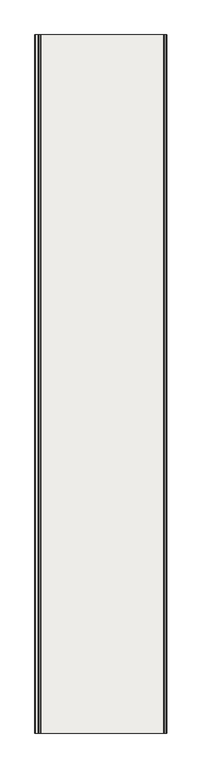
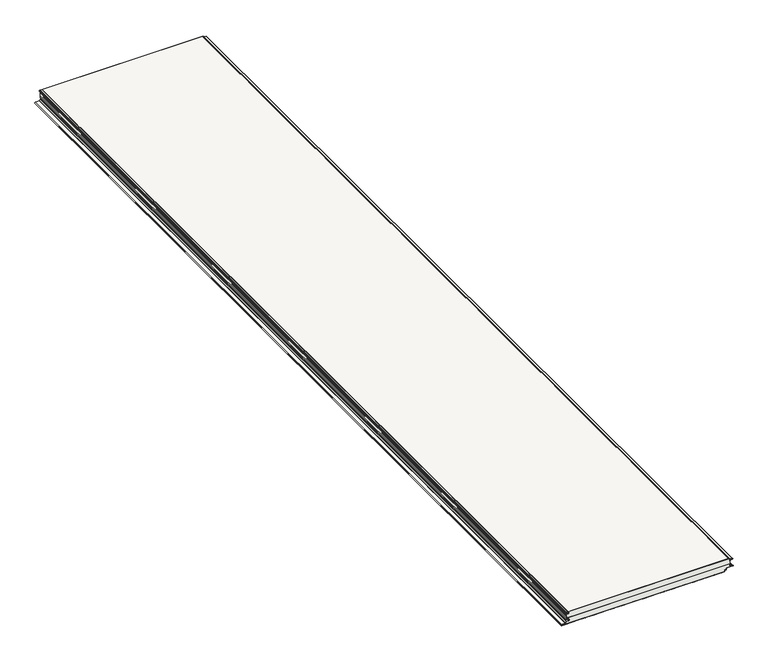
"""IFC4 building model written with IfcOpenShell, lengths in millimetres: covering geometry, Płyta warstwowa ścienna SPW-H CORE PIR (pojedynczy arkusz) : -."""

from ifc_helpers import new_model, si_unit, point, frame, frame_2d, origin, place, context, project, spatial, polyline, circle_curve, trimmed, segment, composite_curve, outline, extrude, source, transform, mapped, element, save
from ifc_brep_helpers import plane_surface, cylinder_surface, revolved_surface, advanced_brep


def covering_65365aae(model_context):
    return source(origin(), model_context, "Body", "SolidModel", [
        extrude(outline(composite_curve([segment(polyline([(-15.1088808, -1083.0523342), (-14.5423642, -1072.2421915)]), True, "CONTINUOUS"), segment(trimmed(circle_curve(frame_2d((-9.549216, -1072.5038626)), 5.0), [point((-14.5423642, -1072.2421915))], [point((-4.5522622, -1072.3293564))], False, "CARTESIAN"), True, "CONTINUOUS"), segment(polyline([(-4.5522622, -1072.3293564), (-4.0495702, -1086.7238513)]), True, "CONTINUOUS"), segment(trimmed(circle_curve(frame_2d((-2.5266447, -1086.6173526)), 1.5266447), [point((-4.0495702, -1086.7238513))], [point((-1.0, -1086.6173526))], True, "CARTESIAN"), True, "CONTINUOUS"), segment(polyline([(-1.0, -1086.6173526), (-1.0, -1085.0), (0.0, -1085.0), (0.0, -1086.6173526)]), True, "CONTINUOUS"), segment(trimmed(circle_curve(frame_2d((-2.5266447, -1086.6173526)), 2.5266447), [point((0.0, -1086.6173526))], [point((-5.0484281, -1086.7740115))], False, "CARTESIAN"), True, "CONTINUOUS"), segment(polyline([(-5.0484281, -1086.7740115), (-5.551653, -1072.3642576)]), True, "CONTINUOUS"), segment(trimmed(circle_curve(frame_2d((-9.549216, -1072.5038626)), 4.0), [point((-5.551653, -1072.3642576))], [point((-13.5437346, -1072.2945257))], True, "CARTESIAN"), True, "CONTINUOUS"), segment(polyline([(-13.5437346, -1072.2945257), (-14.1102512, -1083.1046684)]), True, "CONTINUOUS"), segment(trimmed(circle_curve(frame_2d((-16.1075105, -1083.0)), 2.0), [point((-14.1102512, -1083.1046684))], [point((-16.1075105, -1085.0))], False, "CARTESIAN"), True, "CONTINUOUS"), segment(polyline([(-16.1075105, -1085.0), (-18.1075105, -1085.0), (-18.1075105, -1084.0), (-16.1075105, -1084.0)]), True, "CONTINUOUS"), segment(trimmed(circle_curve(frame_2d((-16.1075105, -1083.0)), 1.0), [point((-16.1075105, -1084.0))], [point((-15.1088808, -1083.0523342))], True, "CARTESIAN"), True, "CONTINUOUS")], self_intersect=False)), frame((0.0, -5830.0, 0.0), z_axis=(0.0, 1.0, 0.0), x_axis=(0.0, 0.0, 1.0)), (0.0, 0.0, 1.0), 5830.0),
        advanced_brep(
        [(-1080.5824878, -5830.0, -62.0150874), (-1069.3324878, -5830.0, -61.9992045), (-1069.0709825, -5830.0, -52.0060522), (-1083.2742211, -5830.0, -51.2619406), (-1084.0, -5830.0, -50.4971426), (-1084.0, -5830.0, -41.4971426), (-1085.0, -5830.0, -41.4971426), (-1085.0, -5830.0, -50.4971426), (-1083.3265396, -5830.0, -52.260571), (-1069.123301, -5830.0, -53.0046827), (-1069.3331636, -5830.0, -60.9992044), (-1080.6396582, -5830.0, -61.0151671), (-1082.7899391, -5830.0, -62.27871), (-1088.1496634, -5830.0, -69.933474), (-1090.1975249, -5830.0, -70.9995686), (-1113.4143745, -5830.0, -70.9999738), (-1113.414296, -5830.0, -80.0), (-1085.0, -5830.0, -80.0), (-1085.0, -5830.0, -79.0), (-1113.414296, -5830.0, -79.0), (-1113.4143571, -5830.0, -72.0), (-1090.1975075, -5830.0, -71.9995686), (-1087.3305014, -5830.0, -70.5070361), (-1081.9707771, -5830.0, -62.8522722), (-1080.5824878, 0.0, -62.0150874), (-1081.9707771, 0.0, -62.8522722), (-1087.3305014, 0.0, -70.5070361), (-1090.1975075, 0.0, -71.9995686), (-1113.4143571, 0.0, -71.9999738), (-1113.414296, 0.0, -79.0), (-1085.0, 0.0, -79.0), (-1085.0, 0.0, -80.0), (-1113.414296, 0.0, -80.0), (-1113.4143745, 0.0, -71.0), (-1090.1975249, 0.0, -70.9995686), (-1088.1496634, 0.0, -69.933474), (-1082.7899391, 0.0, -62.27871), (-1080.6396582, 0.0, -61.0151671), (-1069.3331636, 0.0, -60.9992044), (-1069.123301, 0.0, -53.0046827), (-1083.3265396, 0.0, -52.260571), (-1085.0, 0.0, -50.4971426), (-1085.0, 0.0, -41.4971426), (-1084.0, 0.0, -41.4971426), (-1084.0, 0.0, -50.4971426), (-1083.2742211, 0.0, -51.2619406), (-1069.0709825, 0.0, -52.0060522), (-1069.3324878, 0.0, -61.9992045)],
        [
            (0, 1),
            (1, 2, circle_curve(frame((-1069.3325751, -5830.0, -56.9992045), z_axis=(0.0, -1.0, 0.0), x_axis=(1.0, 0.0, 0.0)), 5.0)),
            (2, 3),
            (3, 4, circle_curve(frame((-1083.2341531, -5830.0, -50.4971426), z_axis=(0.0, 1.0, 0.0), x_axis=(1.0, 0.0, 0.0)), 0.7658469)),
            (4, 5),
            (5, 6),
            (6, 7),
            (7, 8, circle_curve(frame((-1083.2341531, -5830.0, -50.4971426), z_axis=(0.0, -1.0, 0.0), x_axis=(1.0, 0.0, 0.0)), 1.7658469)),
            (8, 9),
            (9, 10, circle_curve(frame((-1069.3325751, -5830.0, -56.9992045), z_axis=(0.0, 1.0, 0.0), x_axis=(1.0, 0.0, 0.0)), 4.0)),
            (10, 11),
            (11, 12, circle_curve(frame((-1080.3324529, -5830.0, -63.9993964), z_axis=(0.0, -1.0, 0.0), x_axis=(1.0, 0.0, 0.0)), 3.0)),
            (12, 13),
            (13, 14, circle_curve(frame((-1090.1975686, -5830.0, -68.4995686), z_axis=(0.0, 1.0, 0.0), x_axis=(1.0, 0.0, 0.0)), 2.5)),
            (14, 15),
            (15, 16, circle_curve(frame((-1113.414296, -5830.0, -75.5), z_axis=(0.0, -1.0, 0.0), x_axis=(1.0, 0.0, 0.0)), 4.5)),
            (16, 17),
            (17, 18),
            (18, 19),
            (19, 20, circle_curve(frame((-1113.414296, -5830.0, -75.5), z_axis=(0.0, 1.0, 0.0), x_axis=(1.0, 0.0, 0.0)), 3.5)),
            (20, 21),
            (21, 22, circle_curve(frame((-1090.1975686, -5830.0, -68.4995686), z_axis=(0.0, -1.0, 0.0), x_axis=(1.0, 0.0, 0.0)), 3.5)),
            (22, 23),
            (23, 0, circle_curve(frame((-1080.3324529, -5830.0, -63.9993964), z_axis=(0.0, 1.0, 0.0), x_axis=(1.0, 0.0, 0.0)), 2.0)),
            (24, 25, circle_curve(frame((-1080.3324529, 0.0, -63.9993964), z_axis=(0.0, -1.0, 0.0), x_axis=(1.0, 0.0, 0.0)), 2.0)),
            (25, 26),
            (26, 27, circle_curve(frame((-1090.1975686, 0.0, -68.4995686), z_axis=(0.0, 1.0, 0.0), x_axis=(1.0, 0.0, 0.0)), 3.5)),
            (27, 28),
            (28, 29, circle_curve(frame((-1113.414296, 0.0, -75.5), z_axis=(0.0, -1.0, 0.0), x_axis=(1.0, 0.0, 0.0)), 3.5)),
            (29, 30),
            (30, 31),
            (31, 32),
            (32, 33, circle_curve(frame((-1113.414296, 0.0, -75.5), z_axis=(0.0, 1.0, 0.0), x_axis=(1.0, 0.0, 0.0)), 4.5)),
            (33, 34),
            (34, 35, circle_curve(frame((-1090.1975686, 0.0, -68.4995686), z_axis=(0.0, -1.0, 0.0), x_axis=(1.0, 0.0, 0.0)), 2.5)),
            (35, 36),
            (36, 37, circle_curve(frame((-1080.3324529, 0.0, -63.9993964), z_axis=(0.0, 1.0, 0.0), x_axis=(1.0, 0.0, 0.0)), 3.0)),
            (37, 38),
            (38, 39, circle_curve(frame((-1069.3325751, 0.0, -56.9992045), z_axis=(0.0, -1.0, 0.0), x_axis=(1.0, 0.0, 0.0)), 4.0)),
            (39, 40),
            (40, 41, circle_curve(frame((-1083.2341531, 0.0, -50.4971426), z_axis=(0.0, 1.0, 0.0), x_axis=(1.0, 0.0, 0.0)), 1.7658469)),
            (41, 42),
            (42, 43),
            (43, 44),
            (44, 45, circle_curve(frame((-1083.2341531, 0.0, -50.4971426), z_axis=(0.0, -1.0, 0.0), x_axis=(1.0, 0.0, 0.0)), 0.7658469)),
            (45, 46),
            (46, 47, circle_curve(frame((-1069.3325751, 0.0, -56.9992045), z_axis=(0.0, 1.0, 0.0), x_axis=(1.0, 0.0, 0.0)), 5.0)),
            (47, 24),
            (0, 24),
            (47, 1),
            (46, 2),
            (45, 3),
            (44, 4),
            (43, 5),
            (42, 6),
            (16, 32),
            (31, 17),
            (30, 18),
            (29, 19),
            (41, 7),
            (40, 8),
            (39, 9),
            (38, 10),
            (37, 11),
            (36, 12),
            (35, 13),
            (34, 14),
            (33, 15),
            (20, 28),
            (27, 21),
            (26, 22),
            (25, 23),
        ],
        [
            plane_surface(frame((-1085.0, -5830.0, -80.0), z_axis=(0.0, -1.0, 0.0), x_axis=(0.0, 0.0, -1.0))),
            plane_surface(frame((-1085.0, 0.0, -80.0), z_axis=(0.0, 1.0, 0.0), x_axis=(0.0, 0.0, -1.0))),
            plane_surface(frame((-1080.5824878, -5830.0, -62.0150874), z_axis=(0.001411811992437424, 0.0, -0.9999990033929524), x_axis=(0.0, 1.0, 0.0))),
            cylinder_surface(frame((-1069.3325751, -5830.0, -56.9992045), z_axis=(0.0, -1.0, 0.0), x_axis=(1.0, 0.0, 0.0)), 5.0),
            plane_surface(frame((-1069.0709825, -5830.0, -52.0060522), z_axis=(0.05231852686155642, 0.0, 0.998630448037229), x_axis=(0.0, 1.0, 0.0))),
            revolved_surface(polyline([(-1082.4683062, 0.0, -50.4971426), (-1082.4683062, -5830.0, -50.4971426)]), (-1083.2341531, -5830.0, -50.4971426), (0.0, 1.0, 0.0)),
            plane_surface(frame((-1084.0, -5830.0, -50.4971426), z_axis=(1.0, 0.0, 0.0), x_axis=(0.0, 1.0, 0.0))),
            plane_surface(frame((-1084.0, -5830.0, -41.4971426), z_axis=(0.0, 0.0, 1.0), x_axis=(0.0, 1.0, 0.0))),
            plane_surface(frame((-1113.414296, -5830.0, -80.0), z_axis=(0.0, 0.0, -1.0), x_axis=(0.0, 1.0, 0.0))),
            plane_surface(frame((-1085.0, -5830.0, -80.0), z_axis=(1.0, 0.0, 0.0), x_axis=(0.0, 1.0, 0.0))),
            plane_surface(frame((-1085.0, -5830.0, -79.0), z_axis=(0.0, 0.0, 1.0), x_axis=(0.0, 1.0, 0.0))),
            plane_surface(frame((-1085.0, -5830.0, -41.4971426), z_axis=(-1.0, 0.0, 0.0), x_axis=(0.0, 1.0, 0.0))),
            cylinder_surface(frame((-1083.2341531, -5830.0, -50.4971426), z_axis=(0.0, -1.0, 0.0), x_axis=(1.0, 0.0, 0.0)), 1.7658469),
            plane_surface(frame((-1083.3265396, -5830.0, -52.260571), z_axis=(-0.05231852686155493, 0.0, -0.998630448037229), x_axis=(0.0, 1.0, 0.0))),
            revolved_surface(polyline([(-1065.3325751, 0.0, -56.9992045), (-1065.3325751, -5830.0, -56.9992045)]), (-1069.3325751, -5830.0, -56.9992045), (0.0, 1.0, 0.0)),
            plane_surface(frame((-1069.3331636, -5830.0, -60.9992044), z_axis=(-0.0014118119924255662, 0.0, 0.9999990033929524), x_axis=(0.0, 1.0, 0.0))),
            cylinder_surface(frame((-1080.3324529, -5830.0, -63.9993964), z_axis=(0.0, -1.0, 0.0), x_axis=(1.0, 0.0, 0.0)), 3.0),
            plane_surface(frame((-1082.7899391, -5830.0, -62.27871), z_axis=(-0.8191620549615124, 0.0, 0.5735621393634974), x_axis=(0.0, 1.0, 0.0))),
            revolved_surface(polyline([(-1087.6975686, 0.0, -68.4995686), (-1087.6975686, -5830.0, -68.4995686)]), (-1090.1975686, -5830.0, -68.4995686), (0.0, 1.0, 0.0)),
            plane_surface(frame((-1090.1975249, -5830.0, -70.9995686), z_axis=(-1.745329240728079e-05, 0.0, 0.9999999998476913), x_axis=(0.0, 1.0, 0.0))),
            plane_surface(frame((-1113.4143571, -5830.0, -71.9999738), z_axis=(1.745329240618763e-05, 0.0, -0.9999999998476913), x_axis=(0.0, 1.0, 0.0))),
            cylinder_surface(frame((-1090.1975686, -5830.0, -68.4995686), z_axis=(0.0, -1.0, 0.0), x_axis=(1.0, 0.0, 0.0)), 3.5),
            plane_surface(frame((-1087.3305014, -5830.0, -70.5070361), z_axis=(0.8191620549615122, 0.0, -0.5735621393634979), x_axis=(0.0, 1.0, 0.0))),
            revolved_surface(polyline([(-1078.3324529, 0.0, -63.9993964), (-1078.3324529, -5830.0, -63.9993964)]), (-1080.3324529, -5830.0, -63.9993964), (0.0, 1.0, 0.0)),
            cylinder_surface(frame((-1113.414296, -5830.0, -75.5), z_axis=(0.0, -1.0, 0.0), x_axis=(1.0, 0.0, 0.0)), 4.5),
            revolved_surface(polyline([(-1109.914296, 0.0, -75.5), (-1109.914296, -5830.0, -75.5)]), (-1113.414296, -5830.0, -75.5), (0.0, 1.0, 0.0)),
        ],
        [
            (0, [[1, 2, 3, 4, 5, 6, 7, 8, 9, 10, 11, 12, 13, 14, 15, 16, 17, 18, 19, 20, 21, 22, 23, 24]]),
            (1, [[25, 26, 27, 28, 29, 30, 31, 32, 33, 34, 35, 36, 37, 38, 39, 40, 41, 42, 43, 44, 45, 46, 47, 48]]),
            (2, [[-1, 49, -48, 50]]),
            (3, [[-2, -50, -47, 51]]),
            (4, [[-3, -51, -46, 52]]),
            (5, [[-4, -52, -45, 53]]),
            (6, [[-5, -53, -44, 54]]),
            (7, [[-6, -54, -43, 55]]),
            (8, [[-17, 56, -32, 57]]),
            (9, [[-18, -57, -31, 58]]),
            (10, [[-19, -58, -30, 59]]),
            (11, [[-7, -55, -42, 60]]),
            (12, [[-8, -60, -41, 61]]),
            (13, [[-9, -61, -40, 62]]),
            (14, [[-10, -62, -39, 63]]),
            (15, [[-11, -63, -38, 64]]),
            (16, [[-12, -64, -37, 65]]),
            (17, [[-13, -65, -36, 66]]),
            (18, [[-14, -66, -35, 67]]),
            (19, [[-15, -67, -34, 68]]),
            (20, [[-21, 69, -28, 70]]),
            (21, [[-22, -70, -27, 71]]),
            (22, [[-23, -71, -26, 72]]),
            (23, [[-24, -72, -25, -49]]),
            (24, [[-16, -68, -33, -56]]),
            (25, [[-20, -59, -29, -69]]),
        ],
    ),
        extrude(outline(composite_curve([segment(polyline([(-80.0, -1049.0098003), (-79.6, -1047.6275239), (-79.6, -1003.4098003), (-80.0, -1002.0275239), (-80.0, -957.8098003), (-79.6, -956.4275239), (-79.6, -912.2098003), (-80.0, -910.8275239), (-80.0, -866.6098003), (-79.6, -865.2275239), (-79.6, -821.0098003), (-80.0, -819.6275239), (-80.0, -775.4098003), (-79.6, -774.0275239), (-79.6, -729.8098003), (-80.0, -728.4275239), (-80.0, -684.2098003), (-79.6, -682.8275239), (-79.6, -638.6098003), (-80.0, -637.2275239), (-80.0, -593.0098003), (-79.6, -591.6275239), (-79.6, -547.4098003), (-80.0, -546.0275239), (-80.0, -501.8098003), (-79.6, -500.4275239), (-79.6, -456.2098003), (-80.0, -454.8275239), (-80.0, -410.6098003), (-79.6, -409.2275239), (-79.6, -365.0098003), (-80.0, -363.6275239), (-80.0, -319.4098003), (-79.6, -318.0275239), (-79.6, -273.8098003), (-80.0, -272.4275239), (-80.0, -228.2098003), (-79.6, -226.8275239), (-79.6, -182.6098003), (-80.0, -181.2275239), (-80.0, -137.0098003), (-79.6, -135.6275239), (-79.6, -91.4098003), (-80.0, -90.0275239), (-80.0, -73.4477183)]), True, "CONTINUOUS"), segment(trimmed(circle_curve(frame_2d((-75.0, -73.4477183)), 5.0), [point((-80.0, -73.4477183))], [point((-75.0, -68.4477183))], False, "CARTESIAN"), True, "CONTINUOUS"), segment(polyline([(-75.0, -68.4477183), (-72.008232, -68.4477183)]), True, "CONTINUOUS"), segment(trimmed(circle_curve(frame_2d((-72.008232, -66.4315256)), 2.0161927), [point((-72.008232, -68.4477183))], [point((-69.9920393, -66.4315256))], True, "CARTESIAN"), True, "CONTINUOUS"), segment(polyline([(-69.9920393, -66.4315256), (-69.9920393, -60.9141788)]), True, "CONTINUOUS"), segment(trimmed(circle_curve(frame_2d((-67.4959919, -60.9141788)), 2.4960474), [point((-69.9920393, -60.9141788))], [point((-67.9326372, -58.4566204))], False, "CARTESIAN"), True, "CONTINUOUS"), segment(polyline([(-67.9326372, -58.4566204), (-61.6533464, -57.3460478)]), True, "CONTINUOUS"), segment(trimmed(circle_curve(frame_2d((-62.0004127, -55.3763918)), 2.0), [point((-61.6533464, -57.3460478))], [point((-60.0004127, -55.3763918))], True, "CARTESIAN"), True, "CONTINUOUS"), segment(polyline([(-60.0004127, -55.3763918), (-60.0004127, -18.8763918)]), True, "CONTINUOUS"), segment(trimmed(circle_curve(frame_2d((-57.0004127, -18.8763918)), 3.0), [point((-60.0004127, -18.8763918))], [point((-54.0045241, -18.7193839))], False, "CARTESIAN"), True, "CONTINUOUS"), segment(polyline([(-54.0045241, -18.7193839), (-53.2754556, -32.6308399)]), True, "CONTINUOUS"), segment(trimmed(circle_curve(frame_2d((-50.7788817, -32.5)), 2.5), [point((-53.2754556, -32.6308399))], [point((-50.7788817, -35.0))], True, "CARTESIAN"), True, "CONTINUOUS"), segment(polyline([(-50.7788817, -35.0), (-41.4988817, -35.0), (-41.4988817, -36.0), (-50.7788817, -36.0)]), True, "CONTINUOUS"), segment(trimmed(circle_curve(frame_2d((-50.7788817, -32.5)), 3.5), [point((-50.7788817, -36.0))], [point((-54.2740851, -32.6831758))], False, "CARTESIAN"), True, "CONTINUOUS"), segment(polyline([(-54.2740851, -32.6831758), (-55.0031536, -18.7717199)]), True, "CONTINUOUS"), segment(trimmed(circle_curve(frame_2d((-57.0004127, -18.8763918)), 2.0), [point((-55.0031536, -18.7717199))], [point((-59.0004127, -18.8763918))], True, "CARTESIAN"), True, "CONTINUOUS"), segment(polyline([(-59.0004127, -18.8763918), (-59.0004127, -55.3763918)]), True, "CONTINUOUS"), segment(trimmed(circle_curve(frame_2d((-62.0004127, -55.3763918)), 3.0), [point((-59.0004127, -55.3763918))], [point((-61.4794682, -58.330815))], False, "CARTESIAN"), True, "CONTINUOUS"), segment(polyline([(-61.4794682, -58.330815), (-67.7580406, -59.4412605)]), True, "CONTINUOUS"), segment(trimmed(circle_curve(frame_2d((-67.4959919, -60.9141788)), 1.4960474), [point((-67.7580406, -59.4412605))], [point((-68.9920393, -60.9141788))], True, "CARTESIAN"), True, "CONTINUOUS"), segment(polyline([(-68.9920393, -60.9141788), (-68.9920393, -66.4315256)]), True, "CONTINUOUS"), segment(trimmed(circle_curve(frame_2d((-72.008232, -66.4315256)), 3.0161927), [point((-68.9920393, -66.4315256))], [point((-72.008232, -69.4477183))], False, "CARTESIAN"), True, "CONTINUOUS"), segment(polyline([(-72.008232, -69.4477183), (-75.0, -69.4477183)]), True, "CONTINUOUS"), segment(trimmed(circle_curve(frame_2d((-75.0, -73.4477183)), 4.0), [point((-75.0, -69.4477183))], [point((-79.0, -73.4477183))], True, "CARTESIAN"), True, "CONTINUOUS"), segment(polyline([(-79.0, -73.4477183), (-79.0, -1085.0), (-80.0, -1085.0), (-80.0, -1049.0098003)]), True, "CONTINUOUS")], self_intersect=False)), frame((0.0, -5830.0, 0.0), z_axis=(0.0, 1.0, 0.0), x_axis=(0.0, 0.0, 1.0)), (0.0, 0.0, 1.0), 5830.0),
        extrude(outline(composite_curve([segment(polyline([(-1.0, -1085.0), (-1.0, -42.1186621)]), True, "CONTINUOUS"), segment(trimmed(circle_curve(frame_2d((-2.5, -42.1186621)), 1.5), [point((-1.0, -42.1186621))], [point((-2.5, -40.6186621))], True, "CARTESIAN"), True, "CONTINUOUS"), segment(polyline([(-2.5, -40.6186621), (-4.3, -40.6186621)]), True, "CONTINUOUS"), segment(trimmed(circle_curve(frame_2d((-4.3, -38.1186621)), 2.5), [point((-4.3, -40.6186621))], [point((-6.7984771, -38.2059108))], False, "CARTESIAN"), True, "CONTINUOUS"), segment(polyline([(-6.7984771, -38.2059108), (-7.363951, -22.012857)]), True, "CONTINUOUS"), segment(trimmed(circle_curve(frame_2d((-9.3627326, -22.082656)), 2.0), [point((-7.363951, -22.012857))], [point((-11.3599917, -21.9779841))], True, "CARTESIAN"), True, "CONTINUOUS"), segment(polyline([(-11.3599917, -21.9779841), (-11.921027, -32.6831758)]), True, "CONTINUOUS"), segment(trimmed(circle_curve(frame_2d((-15.4162304, -32.5)), 3.5), [point((-11.921027, -32.6831758))], [point((-15.4162304, -36.0))], False, "CARTESIAN"), True, "CONTINUOUS"), segment(polyline([(-15.4162304, -36.0), (-18.1062304, -36.0), (-18.1062304, -35.0), (-15.4162304, -35.0)]), True, "CONTINUOUS"), segment(trimmed(circle_curve(frame_2d((-15.4162304, -32.5)), 2.5), [point((-15.4162304, -35.0))], [point((-12.9196566, -32.6308399))], True, "CARTESIAN"), True, "CONTINUOUS"), segment(polyline([(-12.9196566, -32.6308399), (-12.3586212, -21.9256482)]), True, "CONTINUOUS"), segment(trimmed(circle_curve(frame_2d((-9.3627326, -22.082656)), 3.0), [point((-12.3586212, -21.9256482))], [point((-6.3645601, -21.9779575))], False, "CARTESIAN"), True, "CONTINUOUS"), segment(polyline([(-6.3645601, -21.9779575), (-5.7990862, -38.1710114)]), True, "CONTINUOUS"), segment(trimmed(circle_curve(frame_2d((-4.3, -38.1186621)), 1.5), [point((-5.7990862, -38.1710114))], [point((-4.3, -39.6186621))], True, "CARTESIAN"), True, "CONTINUOUS"), segment(polyline([(-4.3, -39.6186621), (-2.5, -39.6186621)]), True, "CONTINUOUS"), segment(trimmed(circle_curve(frame_2d((-2.5, -42.1186621)), 2.5), [point((-2.5, -39.6186621))], [point((0.0, -42.1186621))], False, "CARTESIAN"), True, "CONTINUOUS"), segment(polyline([(0.0, -42.1186621), (0.0, -1085.0), (-1.0, -1085.0)]), True, "CONTINUOUS")], self_intersect=False)), frame((0.0, -5830.0, 0.0), z_axis=(0.0, 1.0, 0.0), x_axis=(0.0, 0.0, 1.0)), (0.0, 0.0, 1.0), 5830.0),
        advanced_brep(
        [(-1113.414296, -5830.0, -79.0), (-1085.0, -5830.0, -79.0), (-73.4477183, -5830.0, -79.0), (-69.4477183, -5830.0, -75.0), (-69.4477183, -5830.0, -72.0078193), (-66.4315256, -5830.0, -68.9916266), (-60.9141788, -5830.0, -68.9916266), (-59.4412605, -5830.0, -67.7576279), (-58.330815, -5830.0, -61.4790555), (-55.3763918, -5830.0, -59.0), (-18.8763918, -5830.0, -59.0), (-18.7717199, -5830.0, -55.0027409), (-32.6831758, -5830.0, -54.2736724), (-36.0, -5830.0, -50.778469), (-36.0, -5830.0, -40.0), (-1084.0, -5830.0, -40.0), (-1084.0, -5830.0, -50.4971426), (-1083.2742211, -5830.0, -51.2619406), (-1069.0709825, -5830.0, -52.0060522), (-1069.3324878, -5830.0, -61.9992045), (-1080.3324878, -5830.0, -61.9993964), (-1081.9707771, -5830.0, -62.8522722), (-1087.3305014, -5830.0, -70.5070361), (-1090.1975075, -5830.0, -71.9995686), (-1113.4143571, -5830.0, -71.9999738), (-1085.0, 0.0, -79.0), (-1113.414296, 0.0, -79.0), (-1113.4143571, 0.0, -72.0), (-1090.1975075, 0.0, -71.9995686), (-1087.3305014, 0.0, -70.5070361), (-1081.9707771, 0.0, -62.8522722), (-1080.3324878, 0.0, -61.9993964), (-1069.3324878, 0.0, -61.9992045), (-1069.0709825, 0.0, -52.0060522), (-1083.2742211, 0.0, -51.2619406), (-1084.0, 0.0, -50.4971426), (-1084.0, 0.0, -40.0), (-36.0, 0.0, -40.0), (-36.0, 0.0, -50.778469), (-32.6831758, 0.0, -54.2736724), (-18.7717199, 0.0, -55.0027409), (-18.8763918, 0.0, -59.0), (-55.3763918, 0.0, -59.0), (-58.330815, 0.0, -61.4790555), (-59.4412605, 0.0, -67.7576279), (-60.9141788, 0.0, -68.9916266), (-66.4315256, 0.0, -68.9916266), (-69.4477183, 0.0, -72.0078193), (-69.4477183, 0.0, -75.0), (-73.4477183, 0.0, -79.0)],
        [
            (0, 1),
            (1, 2),
            (2, 3, circle_curve(frame((-73.4477183, -5830.0, -75.0), z_axis=(0.0, -1.0, 0.0), x_axis=(-1.0, 0.0, 0.0)), 4.0)),
            (3, 4),
            (4, 5, circle_curve(frame((-66.4315256, -5830.0, -72.0078193), z_axis=(0.0, 1.0, 0.0), x_axis=(-1.0, 0.0, 0.0)), 3.0161927)),
            (5, 6),
            (6, 7, circle_curve(frame((-60.9141788, -5830.0, -67.4955792), z_axis=(0.0, -1.0, 0.0), x_axis=(-1.0, 0.0, 0.0)), 1.4960474)),
            (7, 8),
            (8, 9, circle_curve(frame((-55.3763918, -5830.0, -62.0), z_axis=(0.0, 1.0, 0.0), x_axis=(-1.0, 0.0, 0.0)), 3.0)),
            (9, 10),
            (10, 11, circle_curve(frame((-18.8763918, -5830.0, -57.0), z_axis=(0.0, -1.0, 0.0), x_axis=(-1.0, 0.0, 0.0)), 2.0)),
            (11, 12),
            (12, 13, circle_curve(frame((-32.5, -5830.0, -50.778469), z_axis=(0.0, 1.0, 0.0), x_axis=(-1.0, 0.0, 0.0)), 3.5)),
            (13, 14),
            (14, 15),
            (15, 16),
            (16, 17, circle_curve(frame((-1083.2341531, -5830.0, -50.4971426), z_axis=(0.0, -1.0, 0.0), x_axis=(-1.0, 0.0, 0.0)), 0.7658469)),
            (17, 18),
            (18, 19, circle_curve(frame((-1069.3325751, -5830.0, -56.9992045), z_axis=(0.0, 1.0, 0.0), x_axis=(-1.0, 0.0, 0.0)), 5.0)),
            (19, 20),
            (20, 21, circle_curve(frame((-1080.3324529, -5830.0, -63.9993964), z_axis=(0.0, -1.0, 0.0), x_axis=(-1.0, 0.0, 0.0)), 2.0)),
            (21, 22),
            (22, 23, circle_curve(frame((-1090.1975686, -5830.0, -68.4995686), z_axis=(0.0, 1.0, 0.0), x_axis=(-1.0, 0.0, 0.0)), 3.5)),
            (23, 24),
            (24, 0, circle_curve(frame((-1113.414296, -5830.0, -75.5), z_axis=(0.0, -1.0, 0.0), x_axis=(-1.0, 0.0, 0.0)), 3.5)),
            (25, 26),
            (26, 27, circle_curve(frame((-1113.414296, 0.0, -75.5), z_axis=(0.0, 1.0, 0.0), x_axis=(-1.0, 0.0, 0.0)), 3.5)),
            (27, 28),
            (28, 29, circle_curve(frame((-1090.1975686, 0.0, -68.4995686), z_axis=(0.0, -1.0, 0.0), x_axis=(-1.0, 0.0, 0.0)), 3.5)),
            (29, 30),
            (30, 31, circle_curve(frame((-1080.3324529, 0.0, -63.9993964), z_axis=(0.0, 1.0, 0.0), x_axis=(-1.0, 0.0, 0.0)), 2.0)),
            (31, 32),
            (32, 33, circle_curve(frame((-1069.3325751, 0.0, -56.9992045), z_axis=(0.0, -1.0, 0.0), x_axis=(-1.0, 0.0, 0.0)), 5.0)),
            (33, 34),
            (34, 35, circle_curve(frame((-1083.2341531, 0.0, -50.4971426), z_axis=(0.0, 1.0, 0.0), x_axis=(-1.0, 0.0, 0.0)), 0.7658469)),
            (35, 36),
            (36, 37),
            (37, 38),
            (38, 39, circle_curve(frame((-32.5, 0.0, -50.778469), z_axis=(0.0, -1.0, 0.0), x_axis=(-1.0, 0.0, 0.0)), 3.5)),
            (39, 40),
            (40, 41, circle_curve(frame((-18.8763918, 0.0, -57.0), z_axis=(0.0, 1.0, 0.0), x_axis=(-1.0, 0.0, 0.0)), 2.0)),
            (41, 42),
            (42, 43, circle_curve(frame((-55.3763918, 0.0, -62.0), z_axis=(0.0, -1.0, 0.0), x_axis=(-1.0, 0.0, 0.0)), 3.0)),
            (43, 44),
            (44, 45, circle_curve(frame((-60.9141788, 0.0, -67.4955792), z_axis=(0.0, 1.0, 0.0), x_axis=(-1.0, 0.0, 0.0)), 1.4960474)),
            (45, 46),
            (46, 47, circle_curve(frame((-66.4315256, 0.0, -72.0078193), z_axis=(0.0, -1.0, 0.0), x_axis=(-1.0, 0.0, 0.0)), 3.0161927)),
            (47, 48),
            (48, 49, circle_curve(frame((-73.4477183, 0.0, -75.0), z_axis=(0.0, 1.0, 0.0), x_axis=(-1.0, 0.0, 0.0)), 4.0)),
            (49, 25),
            (36, 15),
            (14, 37),
            (0, 26),
            (49, 2),
            (23, 28),
            (27, 24),
            (22, 29),
            (21, 30),
            (20, 31),
            (19, 32),
            (18, 33),
            (17, 34),
            (16, 35),
            (13, 38),
            (12, 39),
            (11, 40),
            (10, 41),
            (9, 42),
            (8, 43),
            (7, 44),
            (6, 45),
            (5, 46),
            (4, 47),
            (3, 48),
        ],
        [
            plane_surface(frame((-1145.0, -5830.0, -40.0), z_axis=(0.0, -1.0, 0.0), x_axis=(-1.0, 0.0, 0.0))),
            plane_surface(frame((-1145.0, 0.0, -40.0), z_axis=(0.0, 1.0, 0.0), x_axis=(1.0, 0.0, 0.0))),
            plane_surface(frame((15.0, -5830.0, -40.0), z_axis=(0.0, 0.0, 1.0), x_axis=(0.0, 1.0, 0.0))),
            plane_surface(frame((-1145.0, -5830.0, -79.0), z_axis=(0.0, 0.0, -1.0), x_axis=(0.0, 1.0, 0.0))),
            plane_surface(frame((-1113.4143571, -5830.0, -71.9999738), z_axis=(-1.7453294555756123e-05, 0.0, 0.9999999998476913), x_axis=(0.0, 1.0, 0.0))),
            revolved_surface(polyline([(-1093.6975686, -5830.0, -68.4995686), (-1093.6975686, 0.0, -68.4995686)]), (-1090.1975686, -5830.0, -68.4995686), (0.0, -1.0, 0.0)),
            plane_surface(frame((-1087.3305014, -5830.0, -70.5070361), z_axis=(-0.8191620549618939, 0.0, 0.5735621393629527), x_axis=(0.0, 1.0, 0.0))),
            cylinder_surface(frame((-1080.3324529, -5830.0, -63.9993964), z_axis=(0.0, 1.0, 0.0), x_axis=(-1.0, 0.0, 0.0)), 2.0),
            plane_surface(frame((-1080.3324878, -5830.0, -61.9993964), z_axis=(-1.7453292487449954e-05, 0.0, 0.9999999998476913), x_axis=(0.0, 1.0, 0.0))),
            revolved_surface(polyline([(-1074.3325751, -5830.0, -56.9992045), (-1074.3325751, 0.0, -56.9992045)]), (-1069.3325751, -5830.0, -56.9992045), (0.0, -1.0, 0.0)),
            plane_surface(frame((-1069.0709825, -5830.0, -52.0060522), z_axis=(-0.05231852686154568, 0.0, -0.9986304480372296), x_axis=(0.0, 1.0, 0.0))),
            cylinder_surface(frame((-1083.2341531, -5830.0, -50.4971426), z_axis=(0.0, 1.0, 0.0), x_axis=(-1.0, 0.0, 0.0)), 0.7658469),
            plane_surface(frame((-1084.0, -5830.0, -50.4971426), z_axis=(-1.0, 0.0, 0.0), x_axis=(0.0, 1.0, 0.0))),
            plane_surface(frame((-36.0, -5830.0, -15.4162304), z_axis=(1.0, 0.0, 0.0), x_axis=(0.0, 1.0, 0.0))),
            revolved_surface(polyline([(-36.0, -5830.0, -50.778469), (-36.0, 0.0, -50.778469)]), (-32.5, -5830.0, -50.778469), (0.0, -1.0, 0.0)),
            plane_surface(frame((-32.6831758, -5830.0, -54.2736724), z_axis=(0.05233595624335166, 0.0, 0.9986295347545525), x_axis=(0.0, 1.0, 0.0))),
            cylinder_surface(frame((-18.8763918, -5830.0, -57.0), z_axis=(0.0, 1.0, 0.0), x_axis=(-1.0, 0.0, 0.0)), 2.0),
            plane_surface(frame((-18.8763918, -5830.0, -59.0), z_axis=(0.0, 0.0, -1.0), x_axis=(0.0, 1.0, 0.0))),
            revolved_surface(polyline([(-58.3763918, -5830.0, -62.0), (-58.3763918, 0.0, -62.0)]), (-55.3763918, -5830.0, -62.0), (0.0, -1.0, 0.0)),
            plane_surface(frame((-58.330815, -5830.0, -61.4790555), z_axis=(0.9847174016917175, 0.0, -0.17415980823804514), x_axis=(0.0, 1.0, 0.0))),
            cylinder_surface(frame((-60.9141788, -5830.0, -67.4955792), z_axis=(0.0, 1.0, 0.0), x_axis=(-1.0, 0.0, 0.0)), 1.4960474),
            plane_surface(frame((-60.9141788, -5830.0, -68.9916266), z_axis=(0.0, 0.0, -1.0), x_axis=(0.0, 1.0, 0.0))),
            revolved_surface(polyline([(-69.4477183, -5830.0, -72.0078193), (-69.4477183, 0.0, -72.0078193)]), (-66.4315256, -5830.0, -72.0078193), (0.0, -1.0, 0.0)),
            plane_surface(frame((-69.4477183, -5830.0, -72.0078193), z_axis=(1.0, 0.0, 0.0), x_axis=(0.0, 1.0, 0.0))),
            cylinder_surface(frame((-73.4477183, -5830.0, -75.0), z_axis=(0.0, 1.0, 0.0), x_axis=(-1.0, 0.0, 0.0)), 4.0),
            cylinder_surface(frame((-1113.414296, -5830.0, -75.5), z_axis=(0.0, 1.0, 0.0), x_axis=(-1.0, 0.0, 0.0)), 3.5),
        ],
        [
            (0, [[1, 2, 3, 4, 5, 6, 7, 8, 9, 10, 11, 12, 13, 14, 15, 16, 17, 18, 19, 20, 21, 22, 23, 24, 25]]),
            (1, [[26, 27, 28, 29, 30, 31, 32, 33, 34, 35, 36, 37, 38, 39, 40, 41, 42, 43, 44, 45, 46, 47, 48, 49, 50]]),
            (2, [[51, -15, 52, -37]]),
            (3, [[-1, 53, -26, -50, 54, -2]]),
            (4, [[55, -28, 56, -24]]),
            (5, [[-55, -23, 57, -29]]),
            (6, [[-57, -22, 58, -30]]),
            (7, [[-58, -21, 59, -31]]),
            (8, [[-59, -20, 60, -32]]),
            (9, [[-60, -19, 61, -33]]),
            (10, [[-61, -18, 62, -34]]),
            (11, [[-62, -17, 63, -35]]),
            (12, [[-63, -16, -51, -36]]),
            (13, [[64, -38, -52, -14]]),
            (14, [[-64, -13, 65, -39]]),
            (15, [[-65, -12, 66, -40]]),
            (16, [[-66, -11, 67, -41]]),
            (17, [[-67, -10, 68, -42]]),
            (18, [[-68, -9, 69, -43]]),
            (19, [[-69, -8, 70, -44]]),
            (20, [[-70, -7, 71, -45]]),
            (21, [[-71, -6, 72, -46]]),
            (22, [[-72, -5, 73, -47]]),
            (23, [[-73, -4, 74, -48]]),
            (24, [[-74, -3, -54, -49]]),
            (25, [[-56, -27, -53, -25]]),
        ],
    ),
        advanced_brep(
        [(-1085.0, -5830.0, -1.0), (-1086.6173526, -5830.0, -1.0), (-1086.7238513, -5830.0, -4.0495702), (-1072.3293564, -5830.0, -4.5522622), (-1072.2421915, -5830.0, -14.5423642), (-1083.0523342, -5830.0, -15.1088808), (-1084.0, -5830.0, -16.1075105), (-1084.0, -5830.0, -40.0), (-36.0, -5830.0, -40.0), (-36.0, -5830.0, -15.4162304), (-32.6831758, -5830.0, -11.921027), (-21.9779841, -5830.0, -11.3599917), (-22.012857, -5830.0, -7.363951), (-38.2059108, -5830.0, -6.7984771), (-40.6186621, -5830.0, -4.3), (-40.6186621, -5830.0, -2.5), (-42.1186621, -5830.0, -1.0), (-43.1368714, -5830.0, -1.0), (-1086.6173526, 0.0, -1.0), (-1085.0, 0.0, -1.0), (-43.1368714, 0.0, -1.0), (-42.1186621, 0.0, -1.0), (-40.6186621, 0.0, -2.5), (-40.6186621, 0.0, -4.3), (-38.2059108, 0.0, -6.7984771), (-22.012857, 0.0, -7.363951), (-21.9779841, 0.0, -11.3599917), (-32.6831758, 0.0, -11.921027), (-36.0, 0.0, -15.4162304), (-36.0, 0.0, -40.0), (-1084.0, 0.0, -40.0), (-1084.0, 0.0, -16.1075105), (-1083.0523342, 0.0, -15.1088808), (-1072.2421915, 0.0, -14.5423642), (-1072.3293564, 0.0, -4.5522622), (-1086.7238513, 0.0, -4.0495702)],
        [
            (0, 1),
            (1, 2, circle_curve(frame((-1086.6173526, -5830.0, -2.5266447), z_axis=(0.0, -1.0, 0.0), x_axis=(-1.0, 0.0, 0.0)), 1.5266447)),
            (2, 3),
            (3, 4, circle_curve(frame((-1072.5038626, -5830.0, -9.549216), z_axis=(0.0, 1.0, 0.0), x_axis=(-1.0, 0.0, 0.0)), 5.0)),
            (4, 5),
            (5, 6, circle_curve(frame((-1083.0, -5830.0, -16.1075105), z_axis=(0.0, -1.0, 0.0), x_axis=(-1.0, 0.0, 0.0)), 1.0)),
            (6, 7),
            (7, 8),
            (8, 9),
            (9, 10, circle_curve(frame((-32.5, -5830.0, -15.4162304), z_axis=(0.0, 1.0, 0.0), x_axis=(-1.0, 0.0, 0.0)), 3.5)),
            (10, 11),
            (11, 12, circle_curve(frame((-22.082656, -5830.0, -9.3627326), z_axis=(0.0, -1.0, 0.0), x_axis=(-1.0, 0.0, 0.0)), 2.0)),
            (12, 13),
            (13, 14, circle_curve(frame((-38.1186621, -5830.0, -4.3), z_axis=(0.0, 1.0, 0.0), x_axis=(-1.0, 0.0, 0.0)), 2.5)),
            (14, 15),
            (15, 16, circle_curve(frame((-42.1186621, -5830.0, -2.5), z_axis=(0.0, -1.0, 0.0), x_axis=(-1.0, 0.0, 0.0)), 1.5)),
            (16, 17),
            (17, 0),
            (18, 19),
            (19, 20),
            (20, 21),
            (21, 22, circle_curve(frame((-42.1186621, 0.0, -2.5), z_axis=(0.0, 1.0, 0.0), x_axis=(-1.0, 0.0, 0.0)), 1.5)),
            (22, 23),
            (23, 24, circle_curve(frame((-38.1186621, 0.0, -4.3), z_axis=(0.0, -1.0, 0.0), x_axis=(-1.0, 0.0, 0.0)), 2.5)),
            (24, 25),
            (25, 26, circle_curve(frame((-22.082656, 0.0, -9.3627326), z_axis=(0.0, 1.0, 0.0), x_axis=(-1.0, 0.0, 0.0)), 2.0)),
            (26, 27),
            (27, 28, circle_curve(frame((-32.5, 0.0, -15.4162304), z_axis=(0.0, -1.0, 0.0), x_axis=(-1.0, 0.0, 0.0)), 3.5)),
            (28, 29),
            (29, 30),
            (30, 31),
            (31, 32, circle_curve(frame((-1083.0, 0.0, -16.1075105), z_axis=(0.0, 1.0, 0.0), x_axis=(-1.0, 0.0, 0.0)), 1.0)),
            (32, 33),
            (33, 34, circle_curve(frame((-1072.5038626, 0.0, -9.549216), z_axis=(0.0, -1.0, 0.0), x_axis=(-1.0, 0.0, 0.0)), 5.0)),
            (34, 35),
            (35, 18, circle_curve(frame((-1086.6173526, 0.0, -2.5266447), z_axis=(0.0, 1.0, 0.0), x_axis=(-1.0, 0.0, 0.0)), 1.5266447)),
            (16, 21),
            (18, 1),
            (7, 30),
            (29, 8),
            (6, 31),
            (5, 32),
            (4, 33),
            (3, 34),
            (2, 35),
            (15, 22),
            (14, 23),
            (13, 24),
            (12, 25),
            (11, 26),
            (10, 27),
            (9, 28),
        ],
        [
            plane_surface(frame((-1145.0, -5830.0, -1.0), z_axis=(0.0, -1.0, 0.0), x_axis=(-1.0, 0.0, 0.0))),
            plane_surface(frame((-1145.0, 0.0, -1.0), z_axis=(0.0, 1.0, 0.0), x_axis=(1.0, 0.0, 0.0))),
            plane_surface(frame((-5.0, -5830.0, -1.0), z_axis=(0.0, 0.0, 1.0), x_axis=(0.0, 1.0, 0.0))),
            plane_surface(frame((-1145.0, -5830.0, -40.0), z_axis=(0.0, 0.0, -1.0), x_axis=(0.0, 1.0, 0.0))),
            plane_surface(frame((-1084.0, -5830.0, -50.4971426), z_axis=(-1.0, 0.0, 0.0), x_axis=(0.0, 1.0, 0.0))),
            cylinder_surface(frame((-1083.0, -5830.0, -16.1075105), z_axis=(0.0, 1.0, 0.0), x_axis=(-1.0, 0.0, 0.0)), 1.0),
            plane_surface(frame((-1083.0523342, -5830.0, -15.1088808), z_axis=(-0.052334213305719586, 0.0, 0.9986296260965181), x_axis=(0.0, 1.0, 0.0))),
            revolved_surface(polyline([(-1077.5038626, -5830.0, -9.549216), (-1077.5038626, 0.0, -9.549216)]), (-1072.5038626, -5830.0, -9.549216), (0.0, -1.0, 0.0)),
            plane_surface(frame((-1072.3293564, -5830.0, -4.5522622), z_axis=(-0.03490124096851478, 0.0, -0.9993907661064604), x_axis=(0.0, 1.0, 0.0))),
            cylinder_surface(frame((-42.1186621, -5830.0, -2.5), z_axis=(0.0, 1.0, 0.0), x_axis=(-1.0, 0.0, 0.0)), 1.5),
            plane_surface(frame((-40.6186621, -5830.0, -2.5), z_axis=(1.0, 0.0, 0.0), x_axis=(0.0, 1.0, 0.0))),
            revolved_surface(polyline([(-40.6186621, -5830.0, -4.3), (-40.6186621, 0.0, -4.3)]), (-38.1186621, -5830.0, -4.3), (0.0, -1.0, 0.0)),
            plane_surface(frame((-38.2059108, -5830.0, -6.7984771), z_axis=(0.03489949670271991, 0.0, 0.9993908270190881), x_axis=(0.0, 1.0, 0.0))),
            cylinder_surface(frame((-22.082656, -5830.0, -9.3627326), z_axis=(0.0, 1.0, 0.0), x_axis=(-1.0, 0.0, 0.0)), 2.0),
            plane_surface(frame((-21.9779841, -5830.0, -11.3599917), z_axis=(0.052335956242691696, 0.0, -0.9986295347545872), x_axis=(0.0, 1.0, 0.0))),
            revolved_surface(polyline([(-36.0, -5830.0, -15.4162304), (-36.0, 0.0, -15.4162304)]), (-32.5, -5830.0, -15.4162304), (0.0, -1.0, 0.0)),
            plane_surface(frame((-36.0, -5830.0, -15.4162304), z_axis=(1.0, 0.0, 0.0), x_axis=(0.0, 1.0, 0.0))),
            cylinder_surface(frame((-1086.6173526, -5830.0, -2.5266447), z_axis=(0.0, 1.0, 0.0), x_axis=(-1.0, 0.0, 0.0)), 1.5266447),
        ],
        [
            (0, [[1, 2, 3, 4, 5, 6, 7, 8, 9, 10, 11, 12, 13, 14, 15, 16, 17, 18]]),
            (1, [[19, 20, 21, 22, 23, 24, 25, 26, 27, 28, 29, 30, 31, 32, 33, 34, 35, 36]]),
            (2, [[-1, -18, -17, 37, -21, -20, -19, 38]]),
            (3, [[39, -30, 40, -8]]),
            (4, [[41, -31, -39, -7]]),
            (5, [[-41, -6, 42, -32]]),
            (6, [[-42, -5, 43, -33]]),
            (7, [[-43, -4, 44, -34]]),
            (8, [[-44, -3, 45, -35]]),
            (9, [[46, -22, -37, -16]]),
            (10, [[-46, -15, 47, -23]]),
            (11, [[-47, -14, 48, -24]]),
            (12, [[-48, -13, 49, -25]]),
            (13, [[-49, -12, 50, -26]]),
            (14, [[-50, -11, 51, -27]]),
            (15, [[-51, -10, 52, -28]]),
            (16, [[-52, -9, -40, -29]]),
            (17, [[-45, -2, -38, -36]]),
        ],
    ),
    ])


if __name__ == "__main__":
    model = new_model("IFC4")
    model_context = context("Model", 3, world=origin())
    ifc_project = project(units=[si_unit("LENGTHUNIT", "METRE", prefix="MILLI")], contexts=[model_context])
    site = spatial("IfcSite", under=ifc_project)
    building = spatial("IfcBuilding", under=site)
    placement = place(None, origin())
    covering_shape = covering_65365aae(model_context)
    element("IfcCovering", 1, ObjectType="Płyta warstwowa ścienna SPW-H CORE PIR (pojedynczy arkusz) : -", at=placement, inside=building, context=model_context, shape_type="MappedRepresentation", body=[
        mapped(covering_shape, transform((0.0, 0.0, 0.0), x_axis=(1.0, 0.0, 0.0), y_axis=(0.0, 1.0, 0.0), z_axis=(0.0, 0.0, 1.0))),
    ])
    save(model, "model.ifc")
